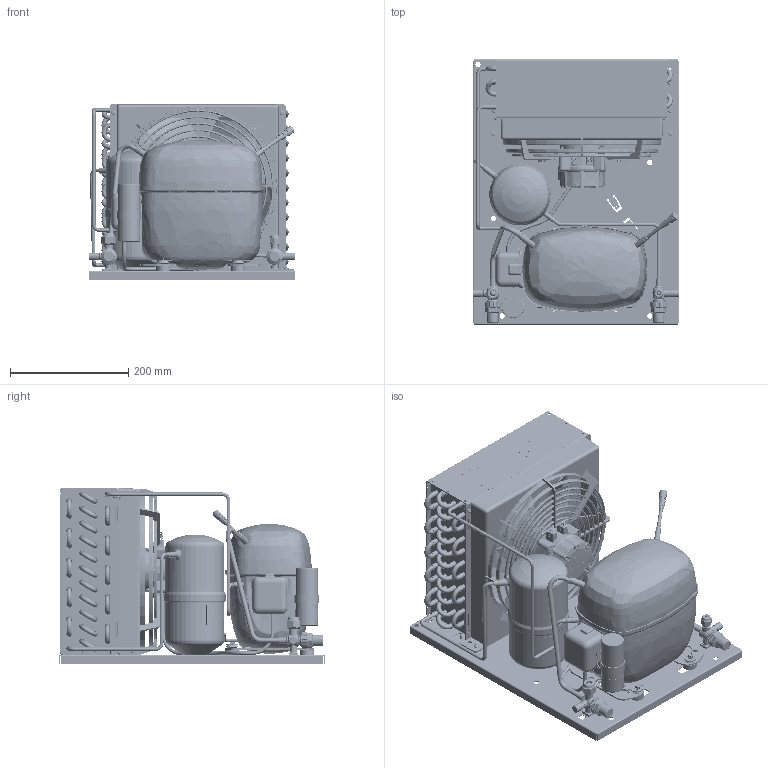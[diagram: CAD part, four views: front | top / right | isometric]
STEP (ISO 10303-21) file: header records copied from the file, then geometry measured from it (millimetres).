
FILE_DESCRIPTION(/* description */ ('Unknown'),/* implementation_level */ '2;1');
FILE_NAME(/* name */ '2298-0045',/* time_stamp */ '2021-12-15T09:29:57+01:00',/* author */ ('Unknown'),/* organization */ ('Unknown'),/* preprocessor_version */ 'ST-DEVELOPER v16.7',/* originating_system */ 'Solid Edge',/* authorisation */ 'Unknown');
FILE_SCHEMA (('AUTOMOTIVE_DESIGN {1 0 10303 214 3 1 1}'));
Products named in the file (44): 2298-0045; 92505122_oa_0; sc12mlx-a-csir; 84fm8x12xxxteff00; 6062_22M6; cg254n; 1140270f71; r50115206; r59700314; r50115207; 2990210; r50115201; r50006108; 62010155; 6072_23M8; A254-28; 100_200vs00; 84DM8X6.9XXESRF00; 7210-0003; 84RM10X21XXPIAF00; sc18cl-a-csr_piedino; 84v1.8x35xxcopf00; 8392_A; 7560_3; 7030_3m10; 7560_2; 7010_22; 99510255; 8351_2; 99510255_Tubo; 84a4.2x9.5xtbcf01; 84t4.8x8xxxtcca00_oa_1; 84t4.8x8xxxtcca00_oa_2; 84t4.8x8xxxtcca00_oa_3; 84t4.8x8xxxtcca00_oa_4; 84dm4x3.6xxesrf00; 99000082_secop; 99000082_SECOP_F-GAS; 9221-0002; 6803-1256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
Assembly tree (103 placements, depth 3):
  2298-0045
    92505122_oa_0
    sc12mlx-a-csir
    84fm8x12xxxteff00  x2
    6062_22M6
    cg254n
    1140270f71
      r50115206
      r59700314  x22
      r50115207
      2990210  x21
      r50115201
      r50006108
    62010155
    6072_23M8
    A254-28
    100_200vs00
    84DM8X6.9XXESRF00
    7210-0003  x2
    84RM10X21XXPIAF00  x4
    sc18cl-a-csr_piedino  x4
    84v1.8x35xxcopf00  x4
    8392_A  x2
    7560_3
    7030_3m10
    7560_2
    7010_22
    99510255
      8351_2
      99510255_Tubo
      8392_A
    84a4.2x9.5xtbcf01  x4
    84t4.8x8xxxtcca00_oa_1
    84t4.8x8xxxtcca00_oa_2
    84t4.8x8xxxtcca00_oa_3
    84t4.8x8xxxtcca00_oa_4
    84dm4x3.6xxesrf00  x4
    99000082_secop
    99000082_SECOP_F-GAS
    9221-0002
    6803-1256
    6803-1249
    6803-1244
    6804-0509
    2298-0045_VACO_VENTOLE
Bounding box: 350 x 450 x 297.36 mm (x, y, z)
Volume: 7566980.7 mm3; surface area: 2915002.2 mm2
Topology: 104 solids, 108 shells, 11649 faces, 30043 edges, 19185 vertices
Faces by surface type: plane 5402, cylinder 2157, bspline 2017, torus 1214, cone 749, sphere 110
Full cylindrical faces by diameter (mm): 1 x3, 1.2 x4, 1.8 x20, 2.2 x8, 2.45 x6, 2.7 x4, 3 x6, 3.14 x6, 3.2 x2, 3.242 x4, 3.3 x2, 3.5 x16, 3.6 x4, 3.7 x4, 3.85 x2, 4 x13, 4.2 x18, 4.205 x11, 4.3 x1, 4.4 x4, 4.5 x6, 4.6 x1, 4.66 x5, 4.7 x4, 4.95 x1, 5 x15, 5.2 x1, 5.4 x6, 5.5 x15, 5.6 x2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
Entity records: 569885 total; most frequent: CARTESIAN_POINT 280353, ORIENTED_EDGE 53210, DIRECTION 39202, EDGE_CURVE 26605, VERTEX_POINT 17733, AXIS2_PLACEMENT_3D 15062, FACE_BOUND 13470, EDGE_LOOP 13468
